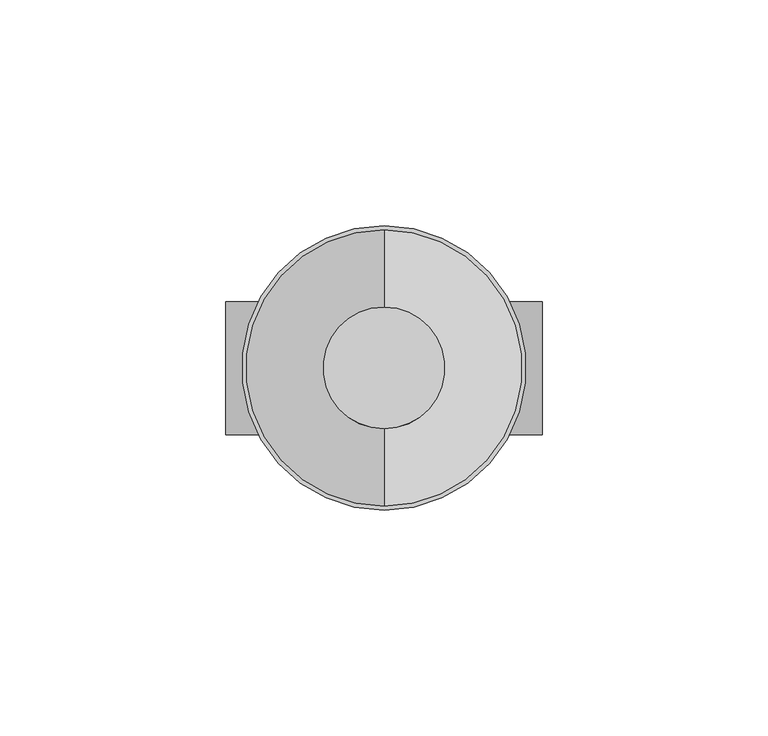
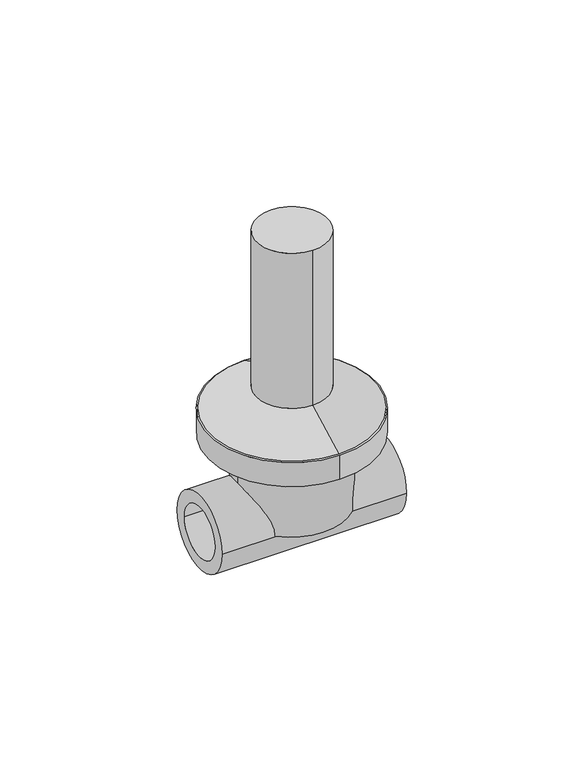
"""IFC4 building model written with IfcOpenShell, lengths in millimetres: valve geometry, Aquatherm - Concealed Valve Standard Tamper Proof : STANDARD TAMPER PROOF."""

from ifc_helpers import new_model, si_unit, point, frame, origin, origin_2d, place, context, project, spatial, polyline, circle_curve, trimmed, segment, composite_curve, outline, extrude, source, transform, mapped, element, save
from ifc_brep_helpers import plane_surface, cylinder_surface, revolved_surface, advanced_brep


def valve_0f605c56(model_context):
    return source(origin(), model_context, "Body", "SolidModel", [
        extrude(outline(composite_curve([segment(trimmed(circle_curve(origin_2d(), 31.496), [point((0.0, 31.496))], [point((0.0, -31.496))], False, "CARTESIAN"), True, "CONTINUOUS"), segment(trimmed(circle_curve(origin_2d(), 31.496), [point((0.0, -31.496))], [point((0.0, 31.496))], False, "CARTESIAN"), True, "CONTINUOUS")], self_intersect=False)), frame((0.0, 0.0, 27.94), z_axis=(0.0, 0.0, 1.0), x_axis=(1.0, 0.0, 0.0)), (0.0, 0.0, 1.0), 9.652),
        extrude(outline(composite_curve([segment(trimmed(circle_curve(origin_2d(), 13.462), [point((0.0, 13.462))], [point((0.0, -13.462))], False, "CARTESIAN"), True, "CONTINUOUS"), segment(trimmed(circle_curve(origin_2d(), 13.462), [point((0.0, -13.462))], [point((0.0, 13.462))], False, "CARTESIAN"), True, "CONTINUOUS")], self_intersect=False)), frame((0.0, 0.0, 46.736), z_axis=(0.0, 0.0, 1.0), x_axis=(1.0, 0.0, 0.0)), (0.0, 0.0, 1.0), 62.23),
        advanced_brep(
        [(0.0, 13.462, 46.736), (0.0, -13.462, 46.736), (0.0, 31.496, 37.592), (0.0, -31.496, 37.592)],
        [
            (0, 1, circle_curve(frame((0.0, 0.0, 46.736), z_axis=(0.0, 0.0, 1.0), x_axis=(0.0, 1.0, 0.0)), 13.462)),
            (1, 0, circle_curve(frame((0.0, 0.0, 46.736), z_axis=(0.0, 0.0, 1.0), x_axis=(0.0, -1.0, 0.0)), 13.462)),
            (2, 3, circle_curve(frame((0.0, 0.0, 37.592), z_axis=(0.0, 0.0, -1.0), x_axis=(0.0, -1.0, 0.0)), 31.496)),
            (3, 2, circle_curve(frame((0.0, 0.0, 37.592), z_axis=(0.0, 0.0, -1.0), x_axis=(0.0, 1.0, 0.0)), 31.496)),
            (3, 1),
            (0, 2),
        ],
        [
            plane_surface(frame((0.0, 0.0, 46.736), z_axis=(0.0, 0.0, 1.0), x_axis=(-1.0, 0.0, 0.0))),
            plane_surface(frame((0.0, 0.0, 37.592), z_axis=(0.0, 0.0, -1.0), x_axis=(-1.0, 0.0, 0.0))),
            revolved_surface(polyline([(0.0, 13.461999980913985, 46.736), (0.0, 31.496, 37.592)]), (0.0, 0.0, 53.5618028), (0.0, 0.0, -1.0)),
            revolved_surface(polyline([(0.0, -13.461999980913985, 46.736), (0.0, -31.496, 37.592)]), (0.0, 0.0, 53.5618028), (0.0, 0.0, -1.0)),
        ],
        [
            (0, [[1, 2]]),
            (1, [[3, 4]]),
            (2, [[-4, 5, -1, 6]]),
            (3, [[-3, -6, -2, -5]]),
        ],
    ),
        advanced_brep(
        [(0.0, 0.0, 27.94), (20.574, 0.0, 27.94), (-20.574, 0.0, 27.94), (-20.574, 0.0, 0.0), (20.574, 0.0, 0.0), (0.0, 0.0, 0.0)],
        [
            (0, 1),
            (1, 2, circle_curve(frame((0.0, 0.0, 27.94), z_axis=(0.0, 0.0, 1.0), x_axis=(1.0, 0.0, 0.0)), 20.574)),
            (2, 0),
            (2, 1, circle_curve(frame((0.0, 0.0, 27.94), z_axis=(0.0, 0.0, 1.0), x_axis=(1.0, 0.0, 0.0)), 20.574)),
            (3, 4, circle_curve(frame((0.0, 0.0, 0.0), z_axis=(0.0, 0.0, -1.0), x_axis=(1.0, 0.0, 0.0)), 20.574)),
            (4, 5),
            (5, 3),
            (4, 3, circle_curve(frame((0.0, 0.0, 0.0), z_axis=(0.0, 0.0, -1.0), x_axis=(1.0, 0.0, 0.0)), 20.574)),
            (1, 4),
            (3, 2),
        ],
        [
            plane_surface(frame((0.0, 0.0, 27.94), z_axis=(0.0, 0.0, 1.0), x_axis=(1.0, 0.0, 0.0))),
            plane_surface(frame((0.0, 0.0, 0.0), z_axis=(0.0, 0.0, -1.0), x_axis=(1.0, 0.0, 0.0))),
            cylinder_surface(frame((0.0, 0.0, 44.7084809), z_axis=(0.0, 0.0, 1.0), x_axis=(1.0, 0.0, 0.0)), 20.574),
        ],
        [
            (0, [[1, 2, 3]]),
            (0, [[-3, 4, -1]]),
            (1, [[5, 6, 7]]),
            (1, [[8, -7, -6]]),
            (2, [[-2, 9, -5, 10]]),
            (2, [[-4, -10, -8, -9]]),
        ],
    ),
        extrude(outline(composite_curve([segment(trimmed(circle_curve(origin_2d(), 14.732), [point((-14.732, 0.0))], [point((14.732, 0.0))], False, "CARTESIAN"), True, "CONTINUOUS"), segment(trimmed(circle_curve(origin_2d(), 14.732), [point((14.732, 0.0))], [point((-14.732, 0.0))], False, "CARTESIAN"), True, "CONTINUOUS")], self_intersect=False), holes=[composite_curve([segment(trimmed(circle_curve(origin_2d(), 10.033), [point((-10.033, 0.0))], [point((10.033, 0.0))], True, "CARTESIAN"), True, "CONTINUOUS"), segment(trimmed(circle_curve(origin_2d(), 10.033), [point((10.033, 0.0))], [point((-10.033, 0.0))], True, "CARTESIAN"), True, "CONTINUOUS")], self_intersect=False)]), frame((-35.052, 0.0, 0.0), z_axis=(1.0, 0.0, 0.0), x_axis=(0.0, 1.0, 0.0)), (0.0, 0.0, 1.0), 70.104),
    ])


if __name__ == "__main__":
    model = new_model("IFC4")
    model_context = context("Model", 3, world=origin())
    ifc_project = project(units=[si_unit("LENGTHUNIT", "METRE", prefix="MILLI")], contexts=[model_context])
    site = spatial("IfcSite", under=ifc_project)
    building = spatial("IfcBuilding", under=site)
    placement = place(None, origin())
    valve_shape = valve_0f605c56(model_context)
    element("IfcValve", 1, ObjectType="Aquatherm - Concealed Valve Standard Tamper Proof : STANDARD TAMPER PROOF", at=placement, inside=building, context=model_context, shape_type="MappedRepresentation", body=[
        mapped(valve_shape, transform((0.0, 0.0, 0.0), x_axis=(1.0, 0.0, 0.0), y_axis=(0.0, 1.0, 0.0), z_axis=(0.0, 0.0, 1.0))),
    ])
    save(model, "model.ifc")
